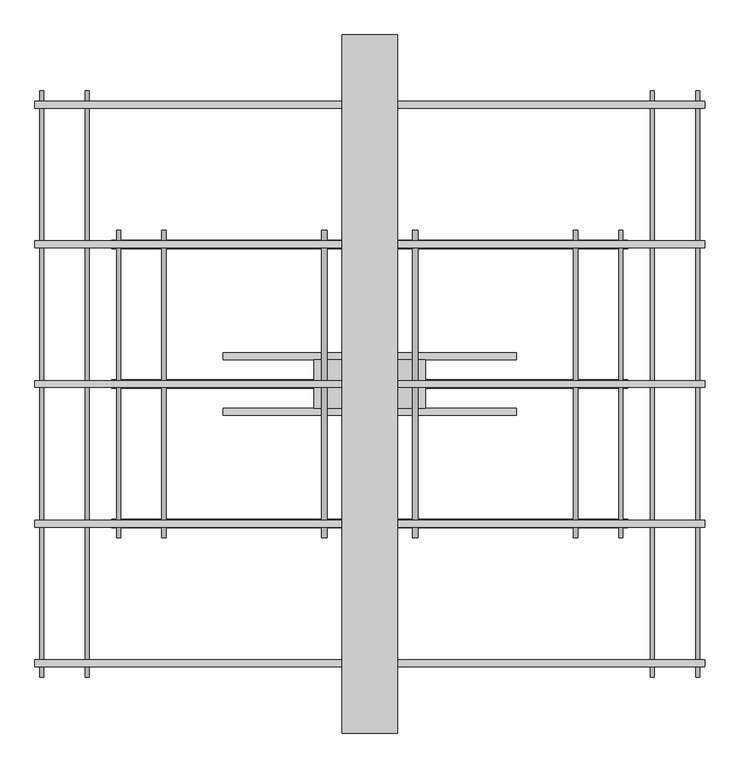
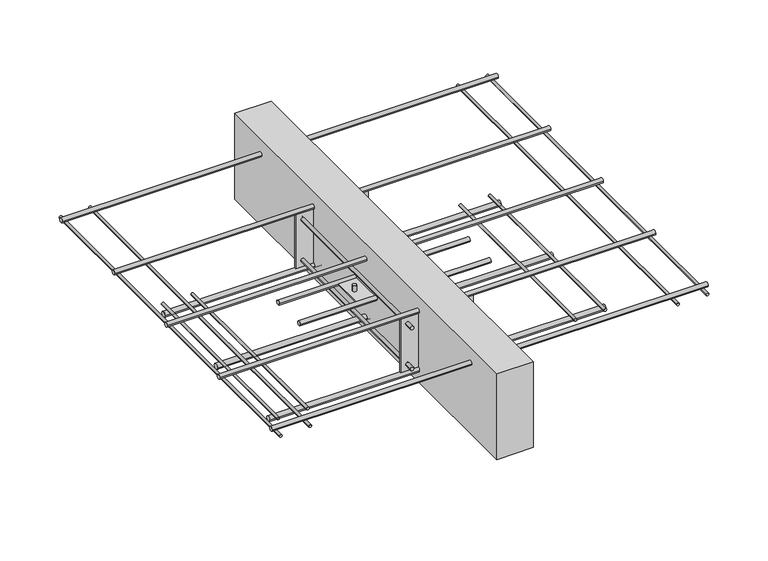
"""IFC4 building model written with IfcOpenShell, lengths in millimetres: fastener geometry, ACINOXplus_Typenreihe_K : KB+ S1."""

from ifc_helpers import new_model, si_unit, point, frame, frame_2d, origin, place, context, project, spatial, polyline, circle_curve, trimmed, segment, composite_curve, outline, extrude, source, transform, mapped, element, save
from ifc_brep_helpers import plane_surface, cylinder_surface, advanced_brep


def fastener_c3a364af(model_context):
    return source(origin(), model_context, "Body", "SolidModel", [
        extrude(outline(polyline([(40.0, 500.0), (40.0, -500.0), (-40.0, -500.0), (-40.0, 500.0), (40.0, 500.0)])), frame((0.0, 0.0, -200.0), z_axis=(0.0, 0.0, 1.0), x_axis=(1.0, 0.0, 0.0)), (0.0, 0.0, 1.0), 200.0),
        extrude(outline(composite_curve([segment(trimmed(circle_curve(frame_2d((-40.0, -102.5)), 5.0), [point((-45.0, -102.5))], [point((-35.0, -102.5))], False, "CARTESIAN"), True, "CONTINUOUS"), segment(trimmed(circle_curve(frame_2d((-40.0, -102.5)), 5.0), [point((-35.0, -102.5))], [point((-45.0, -102.5))], False, "CARTESIAN"), True, "CONTINUOUS")], self_intersect=False)), frame((-210.0, 0.0, 0.0), z_axis=(1.0, 0.0, 0.0), x_axis=(0.0, 1.0, 0.0)), (0.0, 0.0, 1.0), 420.0),
        extrude(outline(composite_curve([segment(trimmed(circle_curve(frame_2d((40.0, -102.5)), 5.0), [point((35.0, -102.5))], [point((45.0, -102.5))], False, "CARTESIAN"), True, "CONTINUOUS"), segment(trimmed(circle_curve(frame_2d((40.0, -102.5)), 5.0), [point((45.0, -102.5))], [point((35.0, -102.5))], False, "CARTESIAN"), True, "CONTINUOUS")], self_intersect=False)), frame((-210.0, 0.0, 0.0), z_axis=(1.0, 0.0, 0.0), x_axis=(0.0, 1.0, 0.0)), (0.0, 0.0, 1.0), 420.0),
        advanced_brep(
        [(-69.0, 0.0, -87.5), (-61.0, 0.0, -87.5), (61.0, 0.0, -87.5), (69.0, 0.0, -87.5), (-69.0, 0.0, -117.5), (-61.0, 0.0, -117.5), (61.0, 0.0, -117.5), (69.0, 0.0, -117.5), (-69.0, 0.0, -101.0), (-61.0, 0.0, -101.0), (-61.0, 0.0, -104.0), (-69.0, 0.0, -104.0), (61.0, 0.0, -101.0), (69.0, 0.0, -101.0), (69.0, 0.0, -104.0), (61.0, 0.0, -104.0), (80.0, 35.0, -101.0), (-80.0, 35.0, -101.0), (-80.0, -35.0, -101.0), (80.0, -35.0, -101.0), (80.0, 35.0, -104.0), (80.0, -35.0, -104.0), (-80.0, -35.0, -104.0), (-80.0, 35.0, -104.0)],
        [
            (0, 1, circle_curve(frame((-65.0, 0.0, -87.5), z_axis=(0.0, 0.0, 1.0), x_axis=(1.0, 0.0, 0.0)), 4.0)),
            (1, 0, circle_curve(frame((-65.0, 0.0, -87.5), z_axis=(0.0, 0.0, 1.0), x_axis=(1.0, 0.0, 0.0)), 4.0)),
            (2, 3, circle_curve(frame((65.0, 0.0, -87.5), z_axis=(0.0, 0.0, 1.0), x_axis=(1.0, 0.0, 0.0)), 4.0)),
            (3, 2, circle_curve(frame((65.0, 0.0, -87.5), z_axis=(0.0, 0.0, 1.0), x_axis=(1.0, 0.0, 0.0)), 4.0)),
            (4, 5, circle_curve(frame((-65.0, 0.0, -117.5), z_axis=(0.0, 0.0, -1.0), x_axis=(1.0, 0.0, 0.0)), 4.0)),
            (5, 4, circle_curve(frame((-65.0, 0.0, -117.5), z_axis=(0.0, 0.0, -1.0), x_axis=(1.0, 0.0, 0.0)), 4.0)),
            (6, 7, circle_curve(frame((65.0, 0.0, -117.5), z_axis=(0.0, 0.0, -1.0), x_axis=(1.0, 0.0, 0.0)), 4.0)),
            (7, 6, circle_curve(frame((65.0, 0.0, -117.5), z_axis=(0.0, 0.0, -1.0), x_axis=(1.0, 0.0, 0.0)), 4.0)),
            (0, 8),
            (8, 9, circle_curve(frame((-65.0, 0.0, -101.0), z_axis=(0.0, 0.0, 1.0), x_axis=(1.0, 0.0, 0.0)), 4.0)),
            (9, 1),
            (5, 10),
            (10, 11, circle_curve(frame((-65.0, 0.0, -104.0), z_axis=(0.0, 0.0, -1.0), x_axis=(1.0, 0.0, 0.0)), 4.0)),
            (11, 4),
            (9, 8, circle_curve(frame((-65.0, 0.0, -101.0), z_axis=(0.0, 0.0, 1.0), x_axis=(1.0, 0.0, 0.0)), 4.0)),
            (11, 10, circle_curve(frame((-65.0, 0.0, -104.0), z_axis=(0.0, 0.0, -1.0), x_axis=(1.0, 0.0, 0.0)), 4.0)),
            (2, 12),
            (12, 13, circle_curve(frame((65.0, 0.0, -101.0), z_axis=(0.0, 0.0, 1.0), x_axis=(1.0, 0.0, 0.0)), 4.0)),
            (13, 3),
            (7, 14),
            (14, 15, circle_curve(frame((65.0, 0.0, -104.0), z_axis=(0.0, 0.0, -1.0), x_axis=(1.0, 0.0, 0.0)), 4.0)),
            (15, 6),
            (13, 12, circle_curve(frame((65.0, 0.0, -101.0), z_axis=(0.0, 0.0, 1.0), x_axis=(1.0, 0.0, 0.0)), 4.0)),
            (15, 14, circle_curve(frame((65.0, 0.0, -104.0), z_axis=(0.0, 0.0, -1.0), x_axis=(1.0, 0.0, 0.0)), 4.0)),
            (16, 17),
            (17, 18),
            (18, 19),
            (19, 16),
            (20, 21),
            (21, 22),
            (22, 23),
            (23, 20),
            (16, 20),
            (23, 17),
            (22, 18),
            (21, 19),
        ],
        [
            plane_surface(frame((-61.0, 0.0, -87.5), z_axis=(0.0, 0.0, 1.0), x_axis=(0.0, 1.0, 0.0))),
            plane_surface(frame((-61.0, 0.0, -117.5), z_axis=(0.0, 0.0, -1.0), x_axis=(0.0, -1.0, 0.0))),
            cylinder_surface(frame((-65.0, 0.0, -117.5), z_axis=(0.0, 0.0, 1.0), x_axis=(1.0, 0.0, 0.0)), 4.0),
            cylinder_surface(frame((65.0, 0.0, -102.5), z_axis=(0.0, 0.0, 1.0), x_axis=(1.0, 0.0, 0.0)), 4.0),
            plane_surface(frame((-80.0, 35.0, -101.0), z_axis=(0.0, 0.0, 1.0), x_axis=(-1.0, 0.0, 0.0))),
            plane_surface(frame((-80.0, 35.0, -104.0), z_axis=(0.0, 0.0, -1.0), x_axis=(1.0, 0.0, 0.0))),
            plane_surface(frame((80.0, 35.0, -101.0), z_axis=(0.0, 1.0, 0.0), x_axis=(0.0, 0.0, -1.0))),
            plane_surface(frame((-80.0, 35.0, -101.0), z_axis=(-1.0, 0.0, 0.0), x_axis=(0.0, 0.0, -1.0))),
            plane_surface(frame((-80.0, -35.0, -101.0), z_axis=(0.0, -1.0, 0.0), x_axis=(0.0, 0.0, -1.0))),
            plane_surface(frame((80.0, -35.0, -101.0), z_axis=(1.0, 0.0, 0.0), x_axis=(0.0, 0.0, -1.0))),
        ],
        [
            (0, [[1, 2]]),
            (0, [[3, 4]]),
            (1, [[5, 6]]),
            (1, [[7, 8]]),
            (2, [[-1, 9, 10, 11]]),
            (2, [[-6, 12, 13, 14]]),
            (2, [[-2, -11, 15, -9]]),
            (2, [[-5, -14, 16, -12]]),
            (3, [[-3, 17, 18, 19]]),
            (3, [[-8, 20, 21, 22]]),
            (3, [[-4, -19, 23, -17]]),
            (3, [[-7, -22, 24, -20]]),
            (4, [[25, 26, 27, 28], [-10, -15], [-18, -23]]),
            (5, [[29, 30, 31, 32], [-13, -16], [-21, -24]]),
            (6, [[-25, 33, -32, 34]]),
            (7, [[-26, -34, -31, 35]]),
            (8, [[-27, -35, -30, 36]]),
            (9, [[-28, -36, -29, -33]]),
        ],
    ),
        extrude(outline(polyline([(80.0, -198.5), (80.0, -201.5), (-80.0, -201.5), (-80.0, -198.5), (80.0, -198.5)])), frame((0.0, 0.0, -165.0), z_axis=(0.0, 0.0, 1.0), x_axis=(1.0, 0.0, 0.0)), (0.0, 0.0, 1.0), 125.0),
        extrude(outline(polyline([(80.0, 201.5), (80.0, 198.5), (-80.0, 198.5), (-80.0, 201.5), (80.0, 201.5)])), frame((0.0, 0.0, -165.0), z_axis=(0.0, 0.0, 1.0), x_axis=(1.0, 0.0, 0.0)), (0.0, 0.0, 1.0), 125.0),
        extrude(outline(composite_curve([segment(trimmed(circle_curve(frame_2d((-150.0, -65.0)), 4.0), [point((-150.0, -69.0))], [point((-150.0, -61.0))], False, "CARTESIAN"), True, "CONTINUOUS"), segment(trimmed(circle_curve(frame_2d((-150.0, -65.0)), 4.0), [point((-150.0, -61.0))], [point((-150.0, -69.0))], False, "CARTESIAN"), True, "CONTINUOUS")], self_intersect=False)), frame((0.0, 201.5, 0.0), z_axis=(0.0, 1.0, 0.0), x_axis=(0.0, 0.0, 1.0)), (0.0, 0.0, 1.0), 18.5),
        extrude(outline(composite_curve([segment(trimmed(circle_curve(frame_2d((-150.0, -65.0)), 4.0), [point((-150.0, -61.0))], [point((-150.0, -69.0))], False, "CARTESIAN"), True, "CONTINUOUS"), segment(trimmed(circle_curve(frame_2d((-150.0, -65.0)), 4.0), [point((-150.0, -69.0))], [point((-150.0, -61.0))], False, "CARTESIAN"), True, "CONTINUOUS")], self_intersect=False)), frame((0.0, -220.0, 0.0), z_axis=(0.0, 1.0, 0.0), x_axis=(0.0, 0.0, 1.0)), (0.0, 0.0, 1.0), 18.5),
        extrude(outline(composite_curve([segment(trimmed(circle_curve(frame_2d((-150.0, -65.0)), 4.0), [point((-150.0, -69.0))], [point((-150.0, -61.0))], False, "CARTESIAN"), True, "CONTINUOUS"), segment(trimmed(circle_curve(frame_2d((-150.0, -65.0)), 4.0), [point((-150.0, -61.0))], [point((-150.0, -69.0))], False, "CARTESIAN"), True, "CONTINUOUS")], self_intersect=False)), frame((0.0, -198.5, 0.0), z_axis=(0.0, 1.0, 0.0), x_axis=(0.0, 0.0, 1.0)), (0.0, 0.0, 1.0), 397.0),
        extrude(outline(composite_curve([segment(trimmed(circle_curve(frame_2d((-150.0, 65.0)), 4.0), [point((-150.0, 61.0))], [point((-150.0, 69.0))], False, "CARTESIAN"), True, "CONTINUOUS"), segment(trimmed(circle_curve(frame_2d((-150.0, 65.0)), 4.0), [point((-150.0, 69.0))], [point((-150.0, 61.0))], False, "CARTESIAN"), True, "CONTINUOUS")], self_intersect=False)), frame((0.0, 201.5, 0.0), z_axis=(0.0, 1.0, 0.0), x_axis=(0.0, 0.0, 1.0)), (0.0, 0.0, 1.0), 18.5),
        extrude(outline(composite_curve([segment(trimmed(circle_curve(frame_2d((-150.0, 65.0)), 4.0), [point((-150.0, 69.0))], [point((-150.0, 61.0))], False, "CARTESIAN"), True, "CONTINUOUS"), segment(trimmed(circle_curve(frame_2d((-150.0, 65.0)), 4.0), [point((-150.0, 61.0))], [point((-150.0, 69.0))], False, "CARTESIAN"), True, "CONTINUOUS")], self_intersect=False)), frame((0.0, -220.0, 0.0), z_axis=(0.0, 1.0, 0.0), x_axis=(0.0, 0.0, 1.0)), (0.0, 0.0, 1.0), 18.5),
        extrude(outline(composite_curve([segment(trimmed(circle_curve(frame_2d((-150.0, 65.0)), 4.0), [point((-150.0, 61.0))], [point((-150.0, 69.0))], False, "CARTESIAN"), True, "CONTINUOUS"), segment(trimmed(circle_curve(frame_2d((-150.0, 65.0)), 4.0), [point((-150.0, 69.0))], [point((-150.0, 61.0))], False, "CARTESIAN"), True, "CONTINUOUS")], self_intersect=False)), frame((0.0, -198.5, 0.0), z_axis=(0.0, 1.0, 0.0), x_axis=(0.0, 0.0, 1.0)), (0.0, 0.0, 1.0), 397.0),
        extrude(outline(composite_curve([segment(trimmed(circle_curve(frame_2d((-55.0, -65.0)), 4.0), [point((-55.0, -69.0))], [point((-55.0, -61.0))], False, "CARTESIAN"), True, "CONTINUOUS"), segment(trimmed(circle_curve(frame_2d((-55.0, -65.0)), 4.0), [point((-55.0, -61.0))], [point((-55.0, -69.0))], False, "CARTESIAN"), True, "CONTINUOUS")], self_intersect=False)), frame((0.0, 201.5, 0.0), z_axis=(0.0, 1.0, 0.0), x_axis=(0.0, 0.0, 1.0)), (0.0, 0.0, 1.0), 18.5),
        extrude(outline(composite_curve([segment(trimmed(circle_curve(frame_2d((-55.0, -65.0)), 4.0), [point((-55.0, -61.0))], [point((-55.0, -69.0))], False, "CARTESIAN"), True, "CONTINUOUS"), segment(trimmed(circle_curve(frame_2d((-55.0, -65.0)), 4.0), [point((-55.0, -69.0))], [point((-55.0, -61.0))], False, "CARTESIAN"), True, "CONTINUOUS")], self_intersect=False)), frame((0.0, -220.0, 0.0), z_axis=(0.0, 1.0, 0.0), x_axis=(0.0, 0.0, 1.0)), (0.0, 0.0, 1.0), 18.5),
        extrude(outline(composite_curve([segment(trimmed(circle_curve(frame_2d((-55.0, -65.0)), 4.0), [point((-55.0, -69.0))], [point((-55.0, -61.0))], False, "CARTESIAN"), True, "CONTINUOUS"), segment(trimmed(circle_curve(frame_2d((-55.0, -65.0)), 4.0), [point((-55.0, -61.0))], [point((-55.0, -69.0))], False, "CARTESIAN"), True, "CONTINUOUS")], self_intersect=False)), frame((0.0, -198.5, 0.0), z_axis=(0.0, 1.0, 0.0), x_axis=(0.0, 0.0, 1.0)), (0.0, 0.0, 1.0), 397.0),
        extrude(outline(composite_curve([segment(trimmed(circle_curve(frame_2d((-55.0, 65.0)), 4.0), [point((-55.0, 61.0))], [point((-55.0, 69.0))], False, "CARTESIAN"), True, "CONTINUOUS"), segment(trimmed(circle_curve(frame_2d((-55.0, 65.0)), 4.0), [point((-55.0, 69.0))], [point((-55.0, 61.0))], False, "CARTESIAN"), True, "CONTINUOUS")], self_intersect=False)), frame((0.0, 201.5, 0.0), z_axis=(0.0, 1.0, 0.0), x_axis=(0.0, 0.0, 1.0)), (0.0, 0.0, 1.0), 18.5),
        extrude(outline(composite_curve([segment(trimmed(circle_curve(frame_2d((-55.0, 65.0)), 4.0), [point((-55.0, 69.0))], [point((-55.0, 61.0))], False, "CARTESIAN"), True, "CONTINUOUS"), segment(trimmed(circle_curve(frame_2d((-55.0, 65.0)), 4.0), [point((-55.0, 61.0))], [point((-55.0, 69.0))], False, "CARTESIAN"), True, "CONTINUOUS")], self_intersect=False)), frame((0.0, -220.0, 0.0), z_axis=(0.0, 1.0, 0.0), x_axis=(0.0, 0.0, 1.0)), (0.0, 0.0, 1.0), 18.5),
        extrude(outline(composite_curve([segment(trimmed(circle_curve(frame_2d((-55.0, 65.0)), 4.0), [point((-55.0, 61.0))], [point((-55.0, 69.0))], False, "CARTESIAN"), True, "CONTINUOUS"), segment(trimmed(circle_curve(frame_2d((-55.0, 65.0)), 4.0), [point((-55.0, 69.0))], [point((-55.0, 61.0))], False, "CARTESIAN"), True, "CONTINUOUS")], self_intersect=False)), frame((0.0, -198.5, 0.0), z_axis=(0.0, 1.0, 0.0), x_axis=(0.0, 0.0, 1.0)), (0.0, 0.0, 1.0), 397.0),
        extrude(outline(composite_curve([segment(trimmed(circle_curve(frame_2d((0.0, -171.0)), 6.0), [point((-6.0, -171.0))], [point((6.0, -171.0))], False, "CARTESIAN"), True, "CONTINUOUS"), segment(trimmed(circle_curve(frame_2d((0.0, -171.0)), 6.0), [point((6.0, -171.0))], [point((-6.0, -171.0))], False, "CARTESIAN"), True, "CONTINUOUS")], self_intersect=False)), frame((-370.0, 0.0, 0.0), z_axis=(1.0, 0.0, 0.0), x_axis=(0.0, 1.0, 0.0)), (0.0, 0.0, 1.0), 740.0),
        extrude(outline(composite_curve([segment(trimmed(circle_curve(frame_2d((200.0, -171.0)), 6.0), [point((194.0, -171.0))], [point((206.0, -171.0))], False, "CARTESIAN"), True, "CONTINUOUS"), segment(trimmed(circle_curve(frame_2d((200.0, -171.0)), 6.0), [point((206.0, -171.0))], [point((194.0, -171.0))], False, "CARTESIAN"), True, "CONTINUOUS")], self_intersect=False)), frame((-370.0, 0.0, 0.0), z_axis=(1.0, 0.0, 0.0), x_axis=(0.0, 1.0, 0.0)), (0.0, 0.0, 1.0), 740.0),
        extrude(outline(composite_curve([segment(trimmed(circle_curve(frame_2d((-200.0, -171.0)), 6.0), [point((-206.0, -171.0))], [point((-194.0, -171.0))], False, "CARTESIAN"), True, "CONTINUOUS"), segment(trimmed(circle_curve(frame_2d((-200.0, -171.0)), 6.0), [point((-194.0, -171.0))], [point((-206.0, -171.0))], False, "CARTESIAN"), True, "CONTINUOUS")], self_intersect=False)), frame((-370.0, 0.0, 0.0), z_axis=(1.0, 0.0, 0.0), x_axis=(0.0, 1.0, 0.0)), (0.0, 0.0, 1.0), 740.0),
        extrude(outline(composite_curve([segment(trimmed(circle_curve(frame_2d((0.0, -35.0)), 5.0), [point((-5.0, -35.0))], [point((5.0, -35.0))], False, "CARTESIAN"), True, "CONTINUOUS"), segment(trimmed(circle_curve(frame_2d((0.0, -35.0)), 5.0), [point((5.0, -35.0))], [point((-5.0, -35.0))], False, "CARTESIAN"), True, "CONTINUOUS")], self_intersect=False)), frame((-480.0, 0.0, 0.0), z_axis=(1.0, 0.0, 0.0), x_axis=(0.0, 1.0, 0.0)), (0.0, 0.0, 1.0), 960.0),
        extrude(outline(composite_curve([segment(trimmed(circle_curve(frame_2d((200.0, -35.0)), 5.0), [point((195.0, -35.0))], [point((205.0, -35.0))], False, "CARTESIAN"), True, "CONTINUOUS"), segment(trimmed(circle_curve(frame_2d((200.0, -35.0)), 5.0), [point((205.0, -35.0))], [point((195.0, -35.0))], False, "CARTESIAN"), True, "CONTINUOUS")], self_intersect=False)), frame((-480.0, 0.0, 0.0), z_axis=(1.0, 0.0, 0.0), x_axis=(0.0, 1.0, 0.0)), (0.0, 0.0, 1.0), 960.0),
        extrude(outline(composite_curve([segment(trimmed(circle_curve(frame_2d((400.0, -35.0)), 5.0), [point((395.0, -35.0))], [point((405.0, -35.0))], False, "CARTESIAN"), True, "CONTINUOUS"), segment(trimmed(circle_curve(frame_2d((400.0, -35.0)), 5.0), [point((405.0, -35.0))], [point((395.0, -35.0))], False, "CARTESIAN"), True, "CONTINUOUS")], self_intersect=False)), frame((-480.0, 0.0, 0.0), z_axis=(1.0, 0.0, 0.0), x_axis=(0.0, 1.0, 0.0)), (0.0, 0.0, 1.0), 960.0),
        extrude(outline(composite_curve([segment(trimmed(circle_curve(frame_2d((-200.0, -35.0)), 5.0), [point((-205.0, -35.0))], [point((-195.0, -35.0))], False, "CARTESIAN"), True, "CONTINUOUS"), segment(trimmed(circle_curve(frame_2d((-200.0, -35.0)), 5.0), [point((-195.0, -35.0))], [point((-205.0, -35.0))], False, "CARTESIAN"), True, "CONTINUOUS")], self_intersect=False)), frame((-480.0, 0.0, 0.0), z_axis=(1.0, 0.0, 0.0), x_axis=(0.0, 1.0, 0.0)), (0.0, 0.0, 1.0), 960.0),
        extrude(outline(composite_curve([segment(trimmed(circle_curve(frame_2d((-400.0, -35.0)), 5.0), [point((-405.0, -35.0))], [point((-395.0, -35.0))], False, "CARTESIAN"), True, "CONTINUOUS"), segment(trimmed(circle_curve(frame_2d((-400.0, -35.0)), 5.0), [point((-395.0, -35.0))], [point((-405.0, -35.0))], False, "CARTESIAN"), True, "CONTINUOUS")], self_intersect=False)), frame((-480.0, 0.0, 0.0), z_axis=(1.0, 0.0, 0.0), x_axis=(0.0, 1.0, 0.0)), (0.0, 0.0, 1.0), 960.0),
        extrude(outline(composite_curve([segment(trimmed(circle_curve(frame_2d((-162.0, -360.0)), 3.0), [point((-162.0, -357.0))], [point((-162.0, -363.0))], False, "CARTESIAN"), True, "CONTINUOUS"), segment(trimmed(circle_curve(frame_2d((-162.0, -360.0)), 3.0), [point((-162.0, -363.0))], [point((-162.0, -357.0))], False, "CARTESIAN"), True, "CONTINUOUS")], self_intersect=False)), frame((0.0, -220.0, 0.0), z_axis=(0.0, 1.0, 0.0), x_axis=(0.0, 0.0, 1.0)), (0.0, 0.0, 1.0), 440.0),
        extrude(outline(composite_curve([segment(trimmed(circle_curve(frame_2d((-162.0, -295.0)), 3.0), [point((-162.0, -292.0))], [point((-162.0, -298.0))], False, "CARTESIAN"), True, "CONTINUOUS"), segment(trimmed(circle_curve(frame_2d((-162.0, -295.0)), 3.0), [point((-162.0, -298.0))], [point((-162.0, -292.0))], False, "CARTESIAN"), True, "CONTINUOUS")], self_intersect=False)), frame((0.0, -220.0, 0.0), z_axis=(0.0, 1.0, 0.0), x_axis=(0.0, 0.0, 1.0)), (0.0, 0.0, 1.0), 440.0),
        extrude(outline(composite_curve([segment(trimmed(circle_curve(frame_2d((-162.0, 295.0)), 3.0), [point((-162.0, 298.0))], [point((-162.0, 292.0))], False, "CARTESIAN"), True, "CONTINUOUS"), segment(trimmed(circle_curve(frame_2d((-162.0, 295.0)), 3.0), [point((-162.0, 292.0))], [point((-162.0, 298.0))], False, "CARTESIAN"), True, "CONTINUOUS")], self_intersect=False)), frame((0.0, -220.0, 0.0), z_axis=(0.0, 1.0, 0.0), x_axis=(0.0, 0.0, 1.0)), (0.0, 0.0, 1.0), 440.0),
        extrude(outline(composite_curve([segment(trimmed(circle_curve(frame_2d((-162.0, 360.0)), 3.0), [point((-162.0, 363.0))], [point((-162.0, 357.0))], False, "CARTESIAN"), True, "CONTINUOUS"), segment(trimmed(circle_curve(frame_2d((-162.0, 360.0)), 3.0), [point((-162.0, 357.0))], [point((-162.0, 363.0))], False, "CARTESIAN"), True, "CONTINUOUS")], self_intersect=False)), frame((0.0, -220.0, 0.0), z_axis=(0.0, 1.0, 0.0), x_axis=(0.0, 0.0, 1.0)), (0.0, 0.0, 1.0), 440.0),
        extrude(outline(composite_curve([segment(trimmed(circle_curve(frame_2d((-43.0, 405.0)), 3.0), [point((-43.0, 408.0))], [point((-43.0, 402.0))], False, "CARTESIAN"), True, "CONTINUOUS"), segment(trimmed(circle_curve(frame_2d((-43.0, 405.0)), 3.0), [point((-43.0, 402.0))], [point((-43.0, 408.0))], False, "CARTESIAN"), True, "CONTINUOUS")], self_intersect=False)), frame((0.0, -420.0, 0.0), z_axis=(0.0, 1.0, 0.0), x_axis=(0.0, 0.0, 1.0)), (0.0, 0.0, 1.0), 840.0),
        extrude(outline(composite_curve([segment(trimmed(circle_curve(frame_2d((-43.0, 470.0)), 3.0), [point((-43.0, 473.0))], [point((-43.0, 467.0))], False, "CARTESIAN"), True, "CONTINUOUS"), segment(trimmed(circle_curve(frame_2d((-43.0, 470.0)), 3.0), [point((-43.0, 467.0))], [point((-43.0, 473.0))], False, "CARTESIAN"), True, "CONTINUOUS")], self_intersect=False)), frame((0.0, -420.0, 0.0), z_axis=(0.0, 1.0, 0.0), x_axis=(0.0, 0.0, 1.0)), (0.0, 0.0, 1.0), 840.0),
        extrude(outline(composite_curve([segment(trimmed(circle_curve(frame_2d((-43.0, -470.0)), 3.0), [point((-43.0, -467.0))], [point((-43.0, -473.0))], False, "CARTESIAN"), True, "CONTINUOUS"), segment(trimmed(circle_curve(frame_2d((-43.0, -470.0)), 3.0), [point((-43.0, -473.0))], [point((-43.0, -467.0))], False, "CARTESIAN"), True, "CONTINUOUS")], self_intersect=False)), frame((0.0, -420.0, 0.0), z_axis=(0.0, 1.0, 0.0), x_axis=(0.0, 0.0, 1.0)), (0.0, 0.0, 1.0), 840.0),
        extrude(outline(composite_curve([segment(trimmed(circle_curve(frame_2d((-43.0, -405.0)), 3.0), [point((-43.0, -402.0))], [point((-43.0, -408.0))], False, "CARTESIAN"), True, "CONTINUOUS"), segment(trimmed(circle_curve(frame_2d((-43.0, -405.0)), 3.0), [point((-43.0, -408.0))], [point((-43.0, -402.0))], False, "CARTESIAN"), True, "CONTINUOUS")], self_intersect=False)), frame((0.0, -420.0, 0.0), z_axis=(0.0, 1.0, 0.0), x_axis=(0.0, 0.0, 1.0)), (0.0, 0.0, 1.0), 840.0),
    ])


if __name__ == "__main__":
    model = new_model("IFC4")
    model_context = context("Model", 3, world=origin())
    ifc_project = project(units=[si_unit("LENGTHUNIT", "METRE", prefix="MILLI")], contexts=[model_context])
    site = spatial("IfcSite", under=ifc_project)
    building = spatial("IfcBuilding", under=site)
    placement = place(None, origin())
    fastener_shape = fastener_c3a364af(model_context)
    element("IfcFastener", 1, ObjectType="ACINOXplus_Typenreihe_K : KB+ S1", at=placement, inside=building, context=model_context, shape_type="MappedRepresentation", body=[
        mapped(fastener_shape, transform((0.0, 0.0, 0.0), x_axis=(1.0, 0.0, 0.0), y_axis=(0.0, 1.0, 0.0), z_axis=(0.0, 0.0, 1.0))),
    ])
    save(model, "model.ifc")
